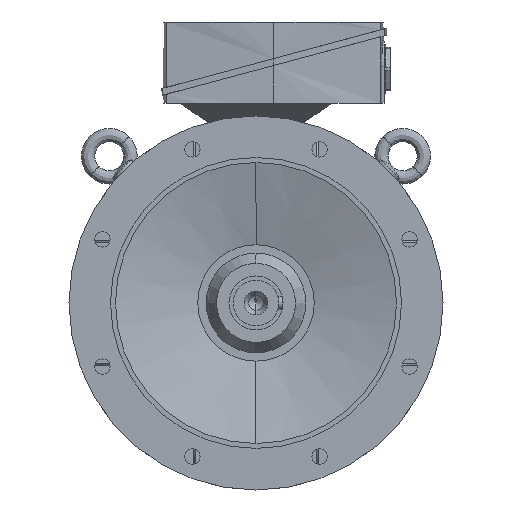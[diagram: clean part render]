
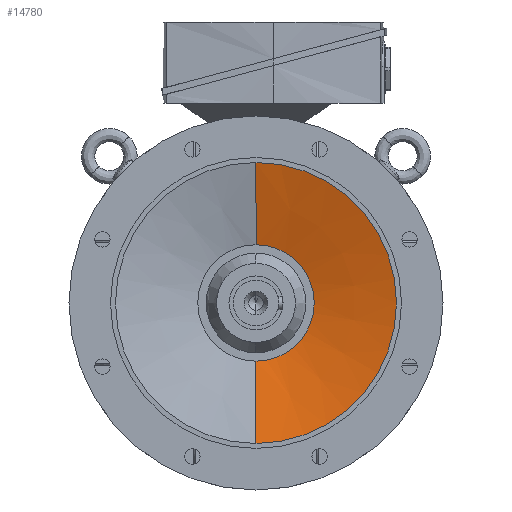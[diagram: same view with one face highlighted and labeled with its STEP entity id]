
A CAD part, left-side view. The second image highlights one B-rep face of the part: STEP entity #14780.
In plain terms, the highlighted conical face has half-angle 74.208 degrees and reference radius 169 mm.
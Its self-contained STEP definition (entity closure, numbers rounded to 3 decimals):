
#103 = CARTESIAN_POINT ( 'NONE',  ( -85., 0., -169. ) ) ;
#128 = CARTESIAN_POINT ( 'NONE',  ( -85., 0., 0. ) ) ;
#282 = DIRECTION ( 'NONE',  ( -0.272, 0., -0.962 ) ) ;
#2112 = EDGE_CURVE ( 'NONE', #26410, #4084, #8233, .T. ) ;
#4084 = VERTEX_POINT ( 'NONE', #36224 ) ;
#6046 = FACE_OUTER_BOUND ( 'NONE', #6077, .T. ) ;
#6077 = EDGE_LOOP ( 'NONE', ( #38687, #53267, #52697, #44968 ) ) ;
#7026 = CIRCLE ( 'NONE', #31744, 169. ) ;
#7544 = VECTOR ( 'NONE', #282, 1000. ) ;
#8068 = CONICAL_SURFACE ( 'NONE', #11821, 169., 1.295 ) ;
#8233 = LINE ( 'NONE', #103, #7544 ) ;
#9751 = DIRECTION ( 'NONE',  ( 0., 0., 1. ) ) ;
#9759 = DIRECTION ( 'NONE',  ( -1., 0., 0. ) ) ;
#9795 = CARTESIAN_POINT ( 'NONE',  ( -57., 0., 0. ) ) ;
#11821 = AXIS2_PLACEMENT_3D ( 'NONE', #128, #19714, #16512 ) ;
#11987 = VERTEX_POINT ( 'NONE', #18576 ) ;
#14780 = ADVANCED_FACE ( 'NONE', ( #6046 ), #8068, .F. ) ;
#15521 = CARTESIAN_POINT ( 'NONE',  ( -85., 0., 169. ) ) ;
#15763 = DIRECTION ( 'NONE',  ( -0.272, 0., 0.962 ) ) ;
#16512 = DIRECTION ( 'NONE',  ( 0., 0., 1. ) ) ;
#17692 = LINE ( 'NONE', #15521, #18282 ) ;
#18282 = VECTOR ( 'NONE', #15763, 1000. ) ;
#18318 = CARTESIAN_POINT ( 'NONE',  ( -85., 0., 0. ) ) ;
#18576 = CARTESIAN_POINT ( 'NONE',  ( -57., 0., 70. ) ) ;
#18645 = DIRECTION ( 'NONE',  ( -1., 0., 0. ) ) ;
#18769 = DIRECTION ( 'NONE',  ( 0., 0., 1. ) ) ;
#19714 = DIRECTION ( 'NONE',  ( -1., 0., 0. ) ) ;
#21332 = EDGE_CURVE ( 'NONE', #26410, #11987, #39056, .T. ) ;
#26410 = VERTEX_POINT ( 'NONE', #31024 ) ;
#31024 = CARTESIAN_POINT ( 'NONE',  ( -57., 0., -70. ) ) ;
#31744 = AXIS2_PLACEMENT_3D ( 'NONE', #18318, #18645, #18769 ) ;
#36224 = CARTESIAN_POINT ( 'NONE',  ( -85., 0., -169. ) ) ;
#36908 = EDGE_CURVE ( 'NONE', #4084, #39654, #7026, .T. ) ;
#38687 = ORIENTED_EDGE ( 'NONE', *, *, #21332, .F. ) ;
#39056 = CIRCLE ( 'NONE', #47485, 70. ) ;
#39654 = VERTEX_POINT ( 'NONE', #46601 ) ;
#44968 = ORIENTED_EDGE ( 'NONE', *, *, #52863, .F. ) ;
#46601 = CARTESIAN_POINT ( 'NONE',  ( -85., 0., 169. ) ) ;
#47485 = AXIS2_PLACEMENT_3D ( 'NONE', #9795, #9759, #9751 ) ;
#52697 = ORIENTED_EDGE ( 'NONE', *, *, #36908, .T. ) ;
#52863 = EDGE_CURVE ( 'NONE', #11987, #39654, #17692, .T. ) ;
#53267 = ORIENTED_EDGE ( 'NONE', *, *, #2112, .T. ) ;
